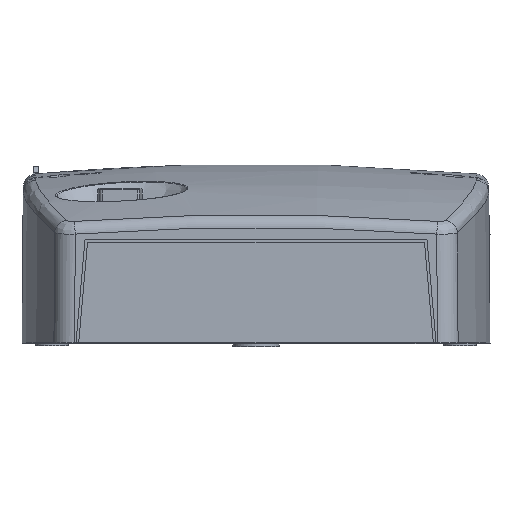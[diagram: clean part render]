
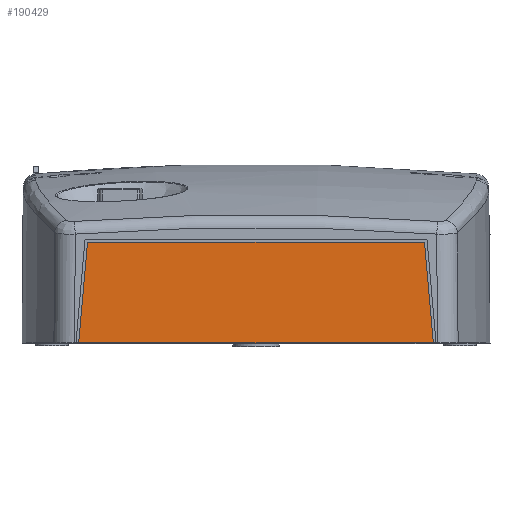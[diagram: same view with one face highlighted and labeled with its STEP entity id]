
A CAD part, top view. The second image highlights one B-rep face of the part: STEP entity #190429.
In plain terms, the highlighted planar face has unit normal (0, 0.009, 1).
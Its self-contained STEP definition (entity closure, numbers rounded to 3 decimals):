
#178202=DIRECTION('',(1.,0.,0.));
#178203=VECTOR('',#178202,123.851);
#178204=CARTESIAN_POINT('',(-61.925,36.99,
115.377));
#178205=LINE('',#178204,#178203);
#178218=DIRECTION('',(-0.087,0.996,-0.009));
#178219=VECTOR('',#178218,37.133);
#178220=CARTESIAN_POINT('',(65.162,0.,115.7));
#178221=LINE('',#178220,#178219);
#178222=DIRECTION('',(1.,0.,0.));
#178223=VECTOR('',#178222,130.323);
#178224=CARTESIAN_POINT('',(-65.162,0.,
115.7));
#178225=LINE('',#178224,#178223);
#178226=DIRECTION('',(-0.087,-0.996,0.009));
#178227=VECTOR('',#178226,37.133);
#178228=CARTESIAN_POINT('',(-61.925,36.99,
115.377));
#178229=LINE('',#178228,#178227);
#183512=CARTESIAN_POINT('',(-65.162,0.,
115.7));
#183513=CARTESIAN_POINT('',(65.162,0.,115.7));
#183514=VERTEX_POINT('',#183512);
#183515=VERTEX_POINT('',#183513);
#183568=CARTESIAN_POINT('',(-61.925,36.99,
115.377));
#183569=VERTEX_POINT('',#183568);
#183570=CARTESIAN_POINT('',(61.925,36.99,
115.377));
#183571=VERTEX_POINT('',#183570);
#190418=CARTESIAN_POINT('',(0.,31.404,115.426));
#190419=DIRECTION('',(0.,0.009,1.));
#190420=DIRECTION('',(-1.,0.,0.));
#190421=AXIS2_PLACEMENT_3D('',#190418,#190419,#190420);
#190422=PLANE('',#190421);
#190423=ORIENTED_EDGE('',*,*,#190410,.F.);
#190424=ORIENTED_EDGE('',*,*,#190311,.F.);
#190425=ORIENTED_EDGE('',*,*,#190381,.F.);
#190426=ORIENTED_EDGE('',*,*,#190396,.T.);
#190427=EDGE_LOOP('',(#190423,#190424,#190425,#190426));
#190428=FACE_OUTER_BOUND('',#190427,.F.);
#190311=EDGE_CURVE('',#183514,#183515,#178225,.T.);
#190381=EDGE_CURVE('',#183569,#183514,#178229,.T.);
#190396=EDGE_CURVE('',#183569,#183571,#178205,.T.);
#190410=EDGE_CURVE('',#183515,#183571,#178221,.T.);
#190429=ADVANCED_FACE('',(#190428),#190422,.T.);
